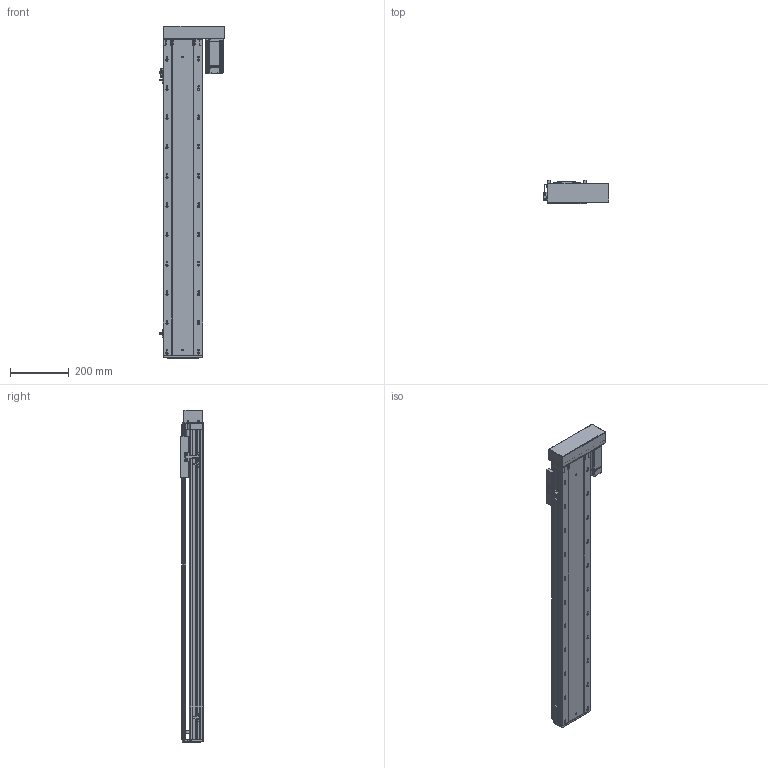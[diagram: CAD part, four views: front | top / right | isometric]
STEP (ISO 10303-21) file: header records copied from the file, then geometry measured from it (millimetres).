
FILE_DESCRIPTION (( 'STEP AP203' ), '1' );
FILE_NAME ('RY140-L1620-300-RK.SLDASM_850.step', '2021-02-22T02:54:53', ( '盈信电脑' ), ( '东莞市道滘镇水果街19号' ), 'SwSTEP 2.0', 'SolidWorks 2012', '' );
FILE_SCHEMA (( 'CONFIG_CONTROL_DESIGN' ));
Products named in the file (14): RY140-L1620-300-RK.SLDASM_850; 覜茼ん672; RY120外置感应片(140共用）; 侂狟400W侜督萇儂; RY140酘衵殏萇儂欶; 15; RY140转折电机端支撑座; 滅袉蝶18-24; RY140蛌殏萇儂假蚾啣; 滅袉蝶18-10; RY140綴裔啣; RY140-300蛌殏倰第菁釱-RK_850; RY140臏賑輸; RY140-300蛌殏倰第奻裔啣-RK_850
Assembly tree (16 placements, depth 3):
  RY140-L1620-300-RK.SLDASM_850
    RY140-300蛌殏倰第菁釱-RK_850
    RY140臏賑輸
    RY140-300蛌殏倰第奻裔啣-RK_850
    RY140綴裔啣
    滅袉蝶18-24  x2
    滅袉蝶18-10
    RY140转折电机端支撑座
    RY140蛌殏萇儂假蚾啣
    侂狟400W侜督萇儂
      15
    RY140酘衵殏萇儂欶
    覜茼ん672  x3
    RY120外置感应片(140共用）
Bounding box: 225.2 x 78 x 1133 mm (x, y, z)
Volume: 3636641.6 mm3; surface area: 1347550.8 mm2
Topology: 15 solids, 15 shells, 2399 faces, 6692 edges, 4288 vertices
Faces by surface type: plane 1178, cylinder 926, cone 202, bspline 93
Entity records: 76819 total; most frequent: CARTESIAN_POINT 18803, ORIENTED_EDGE 12072, DIRECTION 11341, EDGE_CURVE 6036, VERTEX_POINT 3956, AXIS2_PLACEMENT_3D 3784, LINE 3773, VECTOR 3773
